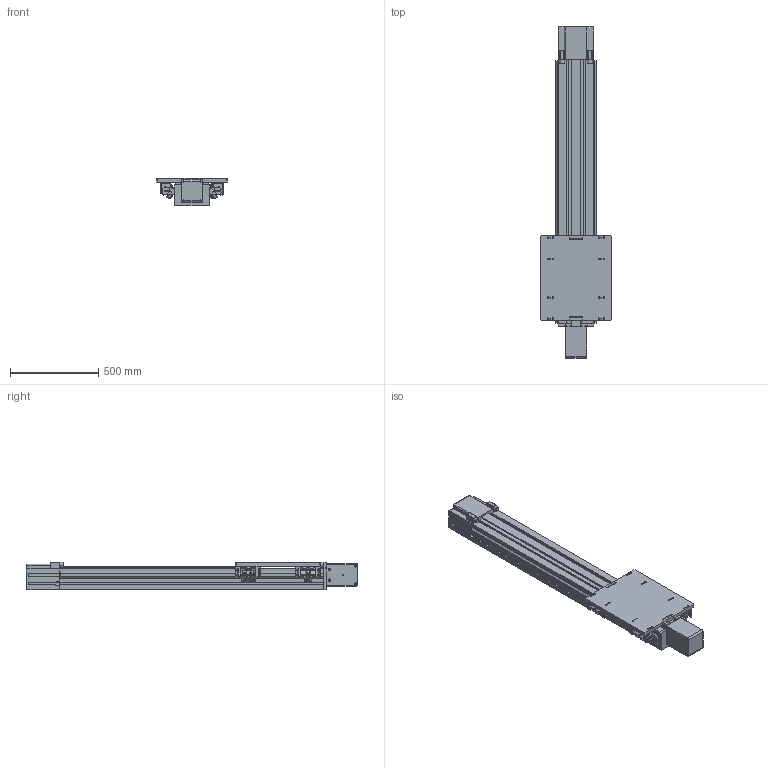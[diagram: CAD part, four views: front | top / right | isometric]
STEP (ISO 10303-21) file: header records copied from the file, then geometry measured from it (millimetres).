
FILE_DESCRIPTION((''),'2;1');
FILE_NAME('\\Tecnoc00\tecno center\Direzione Tecnica\ARCHIVIO DISEGNI\CAD\Modline\3D\serie T\Tc 200\Tcr200.stp','2010-02-15T12:14:27',('sluciani'),(''),'Autodesk Inventor 2009','Autodesk Inventor 2009','');
FILE_SCHEMA(('AUTOMOTIVE_DESIGN { 1 0 10303 214 1 1 1 1 }'));
Length unit declared in the file: millimetre
Products named in the file (12): Tcr200; Profilo Valyda; Piastra Tcr200; 2040474-Pattino a 3 rotelle - 1 ecc; 2040475-Pattino a 3 rotelle - 1 ecc; 2041579-Pattino a 3 rotelle conc; 2042302-Pattino a 3 rotelle conc; Tlf Tcr200; Piastra di coll Tcr 200; Guida a V 35x16; Cinghia L50; Tlm Tc170_200
Assembly tree (12 placements, depth 2):
  Tcr200
    Profilo Valyda
    Piastra Tcr200
    2040474-Pattino a 3 rotelle - 1 ecc
    2040475-Pattino a 3 rotelle - 1 ecc
    2041579-Pattino a 3 rotelle conc
    2042302-Pattino a 3 rotelle conc
    Tlf Tcr200
    Piastra di coll Tcr 200
    Guida a V 35x16  x2
    Cinghia L50
    Tlm Tc170_200
Bounding box: 400 x 1885 x 158 mm (x, y, z)
Volume: 44816575.1 mm3; surface area: 3287895.5 mm2
Topology: 13 solids, 25 shells, 1461 faces, 3564 edges, 2319 vertices
Faces by surface type: plane 757, bspline 377, cylinder 233, torus 56, cone 32, sphere 6
Full cylindrical faces by diameter (mm): 5 x2, 6 x8, 8 x1, 8.5 x8, 10 x8, 13 x4, 14 x4, 15 x1, 16 x1, 20 x24, 24 x2, 25 x3, 40 x12
Entity records: 43927 total; most frequent: CARTESIAN_POINT 10175, ORIENTED_EDGE 6528, DIRECTION 6253, EDGE_CURVE 3264, VECTOR 2467, LINE 2467, VERTEX_POINT 2277, EDGE_LOOP 1969
